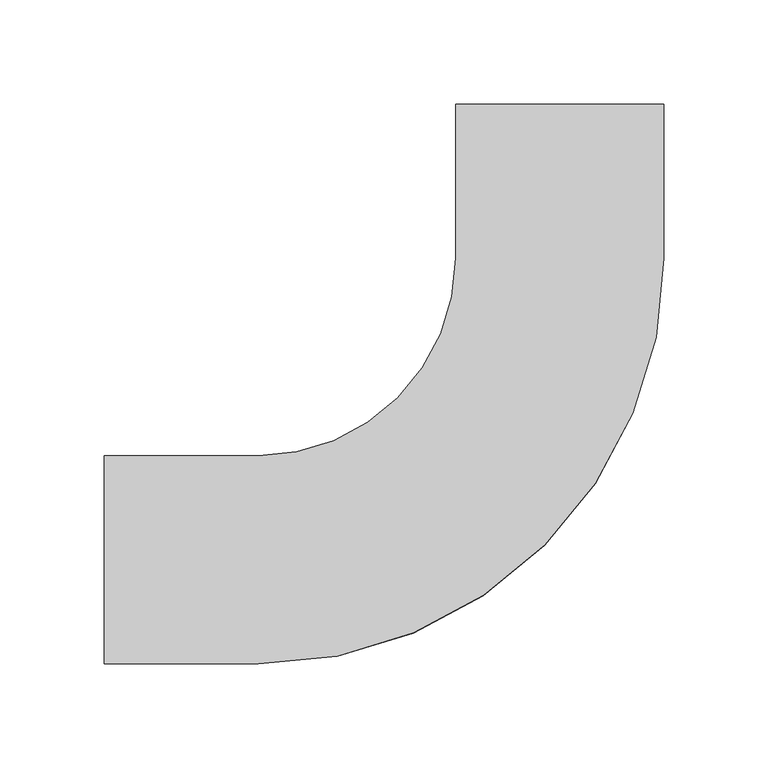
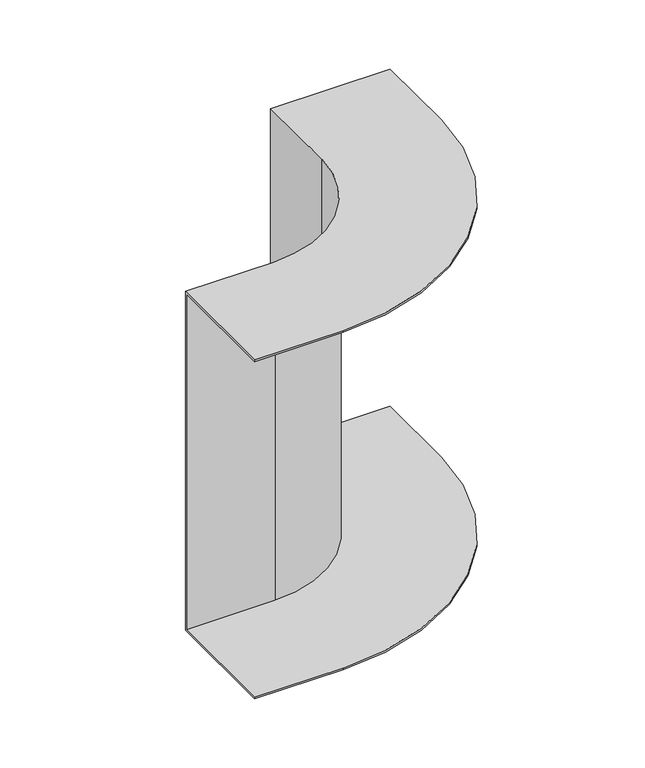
"""IFC4 building model written with IfcOpenShell, lengths in millimetres: cable carrier fitting geometry, BAKS_KK_Vertical bend INTERNAL_LU : LUNP_H100."""

from ifc_helpers import new_model, si_unit, frame, origin, place, context, project, spatial, polyline, circle_curve, source, transform, mapped, element, save
from ifc_brep_helpers import plane_surface, cylinder_surface, revolved_surface, advanced_brep


def cable_carrier_fitting_a7df6f7b(model_context):
    return source(origin(), model_context, "Body", "AdvancedBrep", [
        advanced_brep(
        [(-219.0, -50.0, 150.0), (-219.0, 50.0, 150.0), (-219.0, 50.0, -150.0), (-219.0, -50.0, -150.0), (-219.0, -50.0, -148.5), (-219.0, 48.5, -148.5), (-219.0, 48.5, 148.5), (-219.0, -50.0, 148.5), (50.0, 219.0, 150.0), (50.0, 219.0, 148.5), (-48.5, 219.0, 148.5), (-48.5, 219.0, -148.5), (50.0, 219.0, -148.5), (50.0, 219.0, -150.0), (-50.0, 219.0, -150.0), (-50.0, 219.0, 150.0), (-145.0, -50.0, 150.0), (50.0, 145.0, 150.0), (-50.0, 145.0, 150.0), (-145.0, 50.0, 150.0), (-145.0, 50.0, -150.0), (-50.0, 145.0, -150.0), (50.0, 145.0, -150.0), (-145.0, -50.0, -150.0), (-145.0, -50.0, -148.5), (50.0, 145.0, -148.5), (-48.5, 145.0, -148.5), (-145.0, 48.5, -148.5), (-145.0, 48.5, 148.5), (-48.5, 145.0, 148.5), (50.0, 145.0, 148.5), (-145.0, -50.0, 148.5)],
        [
            (0, 1),
            (1, 2),
            (2, 3),
            (3, 4),
            (4, 5),
            (5, 6),
            (6, 7),
            (7, 0),
            (8, 9),
            (9, 10),
            (10, 11),
            (11, 12),
            (12, 13),
            (13, 14),
            (14, 15),
            (15, 8),
            (0, 16),
            (16, 17, circle_curve(frame((-145.0, 145.0, 150.0), z_axis=(0.0, 0.0, 1.0), x_axis=(0.0, -1.0, 0.0)), 195.0)),
            (17, 8),
            (15, 18),
            (18, 19, circle_curve(frame((-145.0, 145.0, 150.0), z_axis=(0.0, 0.0, -1.0), x_axis=(0.0, -1.0, 0.0)), 95.0)),
            (19, 1),
            (19, 20),
            (20, 2),
            (20, 21, circle_curve(frame((-145.0, 145.0, -150.0), z_axis=(0.0, 0.0, 1.0), x_axis=(0.0, -1.0, 0.0)), 95.0)),
            (21, 14),
            (13, 22),
            (22, 23, circle_curve(frame((-145.0, 145.0, -150.0), z_axis=(0.0, 0.0, -1.0), x_axis=(0.0, -1.0, 0.0)), 195.0)),
            (23, 3),
            (23, 24),
            (24, 4),
            (24, 25, circle_curve(frame((-145.0, 145.0, -148.5), z_axis=(0.0, 0.0, 1.0), x_axis=(0.0, -1.0, 0.0)), 195.0)),
            (25, 12),
            (11, 26),
            (26, 27, circle_curve(frame((-145.0, 145.0, -148.5), z_axis=(0.0, 0.0, -1.0), x_axis=(0.0, -1.0, 0.0)), 96.5)),
            (27, 5),
            (27, 28),
            (28, 6),
            (28, 29, circle_curve(frame((-145.0, 145.0, 148.5), z_axis=(0.0, 0.0, 1.0), x_axis=(0.0, -1.0, 0.0)), 96.5)),
            (29, 10),
            (9, 30),
            (30, 31, circle_curve(frame((-145.0, 145.0, 148.5), z_axis=(0.0, 0.0, -1.0), x_axis=(0.0, -1.0, 0.0)), 195.0)),
            (31, 7),
            (31, 16),
            (18, 21),
            (22, 25),
            (26, 29),
            (30, 17),
        ],
        [
            plane_surface(frame((-219.0, 0.0, 0.0), z_axis=(-1.0, 0.0, 0.0), x_axis=(0.0, 0.0, 1.0))),
            plane_surface(frame((0.0, 219.0, 0.0), z_axis=(0.0, 1.0, 0.0), x_axis=(0.0, 0.0, 1.0))),
            plane_surface(frame((-219.0, -50.0, 150.0), z_axis=(0.0, 0.0, 1.0), x_axis=(1.0, 0.0, 0.0))),
            plane_surface(frame((-219.0, 50.0, 150.0), z_axis=(0.0, 1.0, 0.0), x_axis=(1.0, 0.0, 0.0))),
            plane_surface(frame((-219.0, 50.0, -150.0), z_axis=(0.0, 0.0, -1.0), x_axis=(1.0, 0.0, 0.0))),
            plane_surface(frame((-219.0, -50.0, -150.0), z_axis=(0.0, -1.0, 0.0), x_axis=(1.0, 0.0, 0.0))),
            plane_surface(frame((-219.0, -50.0, -148.5), z_axis=(0.0, 0.0, 1.0), x_axis=(1.0, 0.0, 0.0))),
            plane_surface(frame((-219.0, 48.5, -148.5), z_axis=(0.0, -1.0, 0.0), x_axis=(1.0, 0.0, 0.0))),
            plane_surface(frame((-219.0, 48.5, 148.5), z_axis=(0.0, 0.0, -1.0), x_axis=(1.0, 0.0, 0.0))),
            plane_surface(frame((-219.0, -50.0, 148.5), z_axis=(0.0, -1.0, 0.0), x_axis=(1.0, 0.0, 0.0))),
            revolved_surface(polyline([(-145.0, 50.0, 150.0), (-145.0, 50.0, -150.0)]), (-145.0, 145.0, 0.0), (0.0, 0.0, 1.0)),
            cylinder_surface(frame((-145.0, 145.0, 0.0), z_axis=(0.0, 0.0, 1.0), x_axis=(0.0, -1.0, 0.0)), 195.0),
            cylinder_surface(frame((-145.0, 145.0, 0.0), z_axis=(0.0, 0.0, 1.0), x_axis=(0.0, -1.0, 0.0)), 96.5),
            plane_surface(frame((-50.0, 145.0, 150.0), z_axis=(-1.0, 0.0, 0.0), x_axis=(0.0, 1.0, 0.0))),
            plane_surface(frame((50.0, 145.0, -150.0), z_axis=(1.0, 0.0, 0.0), x_axis=(0.0, 1.0, 0.0))),
            plane_surface(frame((-48.5, 145.0, -148.5), z_axis=(1.0, 0.0, 0.0), x_axis=(0.0, 1.0, 0.0))),
            plane_surface(frame((50.0, 145.0, 148.5), z_axis=(1.0, 0.0, 0.0), x_axis=(0.0, 1.0, 0.0))),
        ],
        [
            (0, [[1, 2, 3, 4, 5, 6, 7, 8]]),
            (1, [[9, 10, 11, 12, 13, 14, 15, 16]]),
            (2, [[-1, 17, 18, 19, -16, 20, 21, 22]]),
            (3, [[-2, -22, 23, 24]]),
            (4, [[-3, -24, 25, 26, -14, 27, 28, 29]]),
            (5, [[-4, -29, 30, 31]]),
            (6, [[-5, -31, 32, 33, -12, 34, 35, 36]]),
            (7, [[-6, -36, 37, 38]]),
            (8, [[-7, -38, 39, 40, -10, 41, 42, 43]]),
            (9, [[-8, -43, 44, -17]]),
            (10, [[-25, -23, -21, 45]]),
            (11, [[-32, -30, -28, 46]]),
            (12, [[-39, -37, -35, 47]]),
            (11, [[-18, -44, -42, 48]]),
            (13, [[-45, -20, -15, -26]]),
            (14, [[-46, -27, -13, -33]]),
            (15, [[-47, -34, -11, -40]]),
            (16, [[-48, -41, -9, -19]]),
        ],
    ),
    ])


if __name__ == "__main__":
    model = new_model("IFC4")
    model_context = context("Model", 3, world=origin())
    ifc_project = project(units=[si_unit("LENGTHUNIT", "METRE", prefix="MILLI")], contexts=[model_context])
    site = spatial("IfcSite", under=ifc_project)
    building = spatial("IfcBuilding", under=site)
    placement = place(None, origin())
    cable_carrier_fitting_shape = cable_carrier_fitting_a7df6f7b(model_context)
    element("IfcCableCarrierFitting", 1, ObjectType="BAKS_KK_Vertical bend INTERNAL_LU : LUNP_H100", at=placement, inside=building, context=model_context, shape_type="MappedRepresentation", body=[
        mapped(cable_carrier_fitting_shape, transform((0.0, 0.0, 0.0), x_axis=(1.0, 0.0, 0.0), y_axis=(0.0, 1.0, 0.0), z_axis=(0.0, 0.0, 1.0))),
    ])
    save(model, "model.ifc")
